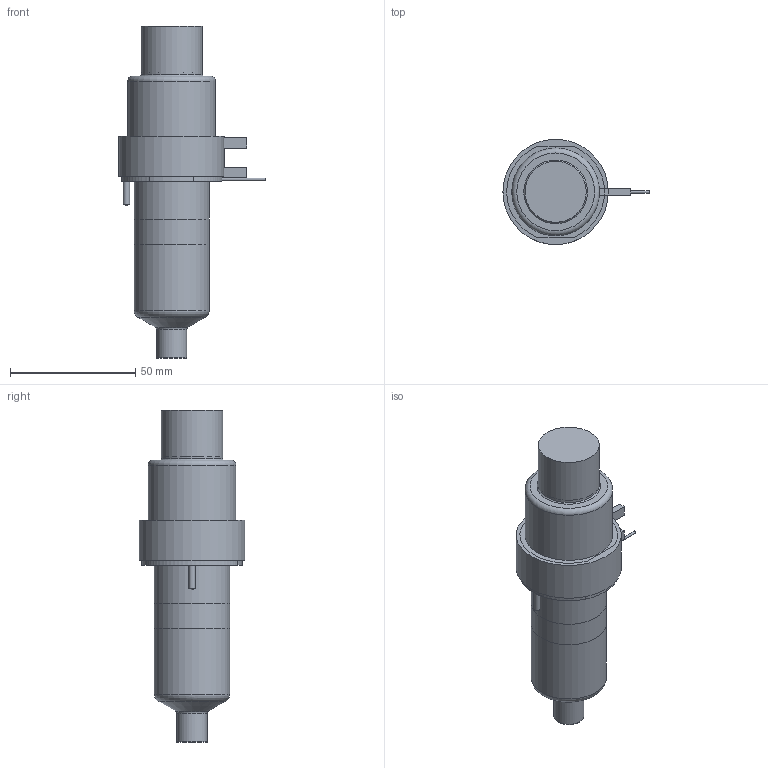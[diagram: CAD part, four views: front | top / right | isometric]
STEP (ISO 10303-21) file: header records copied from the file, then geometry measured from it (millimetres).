
FILE_DESCRIPTION(/* description */ (''),/* implementation_level */ '2;1');
FILE_NAME(/* name */ 'SXTSN-SXISN-SXOSN16065_200C_b',/* time_stamp */ '2007-01-24T17:17:48+13:00',/* author */ (''),/* organization */ (''),/* preprocessor_version */ 'ST-DEVELOPER v9',/* originating_system */ 'UGS - NX 4.0',/* authorisation */ '');
FILE_SCHEMA (('CONFIG_CONTROL_DESIGN'));
Length unit declared in the file: millimetre
Products named in the file (1): SXTSN-SXISN-SXOSN16065_200C_b
Bounding box: 58.25 x 42 x 132.39 mm (x, y, z)
Volume: 174131.1 mm3; surface area: 30525.4 mm2
Topology: 7 solids, 7 shells, 92 faces, 180 edges, 116 vertices
Faces by surface type: plane 45, cylinder 28, cone 9, torus 9, bspline 1
Full cylindrical faces by diameter (mm): 1 x4, 2.5 x2, 7 x1, 11.61 x1, 12.01 x2, 14.8 x1, 24 x1, 24.4 x1, 25.4 x1, 30 x2, 31.8 x1, 35 x1, 40 x1, 42 x1
Entity records: 2250 total; most frequent: CARTESIAN_POINT 438, DIRECTION 382, ORIENTED_EDGE 268, AXIS2_PLACEMENT_3D 166, EDGE_LOOP 142, EDGE_CURVE 134, VERTEX_POINT 107, ADVANCED_FACE 92
